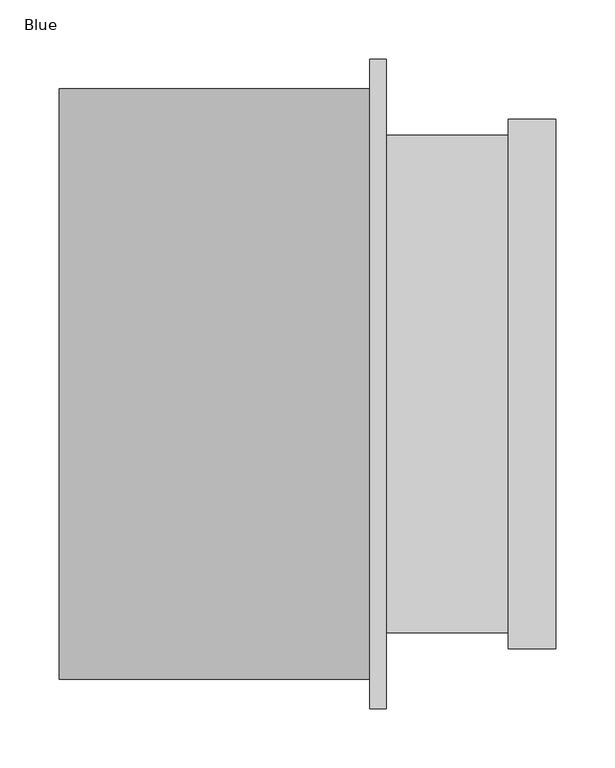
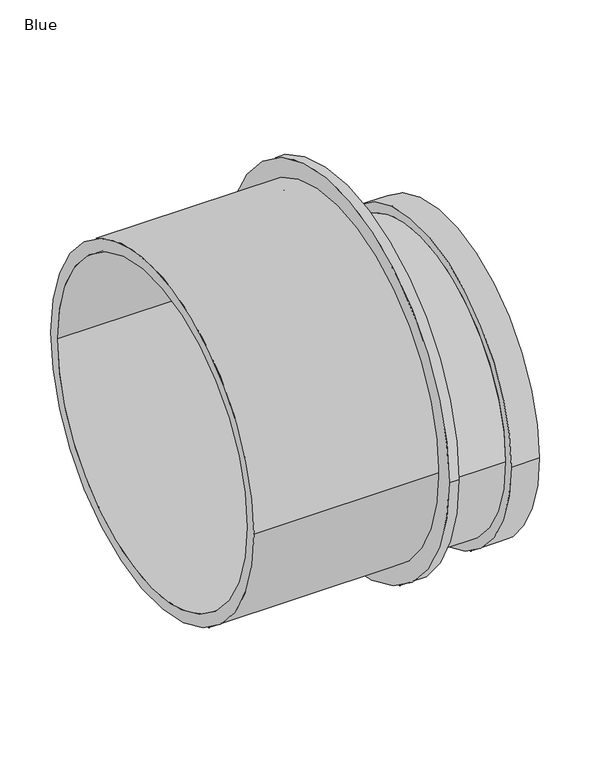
"""IFC4 building model written with IfcOpenShell, lengths in millimetres: pipe fitting geometry, AWADUKT PP Transition : Blue."""

from ifc_helpers import new_model, si_unit, point, frame, frame_2d, origin, origin_2d, place, context, project, spatial, polyline, circle_curve, trimmed, segment, composite_curve, outline, extrude, source, transform, mapped, element, save
from ifc_brep_helpers import plane_surface, cylinder_surface, revolved_surface, advanced_brep


def blue_9578d6e9(model_context):
    return source(origin(), model_context, "Body", "SolidModel", [
        extrude(outline(composite_curve([segment(trimmed(circle_curve(origin_2d(), 275.0), [point((-275.0, 0.0))], [point((275.0, 0.0))], False, "CARTESIAN"), True, "CONTINUOUS"), segment(trimmed(circle_curve(origin_2d(), 275.0), [point((275.0, 0.0))], [point((-275.0, 0.0))], False, "CARTESIAN"), True, "CONTINUOUS")], self_intersect=False), holes=[composite_curve([segment(trimmed(circle_curve(frame_2d((0.0, -48.3)), 186.05), [point((-186.05, -48.3))], [point((186.05, -48.3))], True, "CARTESIAN"), True, "CONTINUOUS"), segment(trimmed(circle_curve(frame_2d((0.0, -48.3)), 186.05), [point((186.05, -48.3))], [point((-186.05, -48.3))], True, "CARTESIAN"), True, "CONTINUOUS")], self_intersect=False)]), frame((274.0, 0.0, 0.0), z_axis=(1.0, 0.0, 0.0), x_axis=(0.0, 1.0, 0.0)), (0.0, 0.0, 1.0), 14.0),
        advanced_brep(
        [(391.3, -210.4, -48.3), (391.3, 210.4, -48.3), (288.0, 210.4, -48.3), (288.0, -210.4, -48.3), (431.5, -224.2, -48.3), (431.5, 224.2, -48.3), (391.3, 224.2, -48.3), (391.3, -224.2, -48.3), (421.1, -200.0, -48.3), (421.1, 200.0, -48.3), (431.5, 200.0, -48.3), (431.5, -200.0, -48.3), (401.7, -210.4, -48.3), (401.7, 210.4, -48.3), (421.1, 210.4, -48.3), (421.1, -210.4, -48.3), (288.0, -200.0, -48.3), (288.0, 200.0, -48.3), (401.7, 200.0, -48.3), (401.7, -200.0, -48.3)],
        [
            (0, 1, circle_curve(frame((391.3, 0.0, -48.3), z_axis=(-1.0, 0.0, 0.0), x_axis=(0.0, 1.0, 0.0)), 210.4)),
            (1, 2),
            (2, 3, circle_curve(frame((288.0, 0.0, -48.3), z_axis=(1.0, 0.0, 0.0), x_axis=(0.0, 1.0, 0.0)), 210.4)),
            (3, 0),
            (4, 5, circle_curve(frame((431.5, 0.0, -48.3), z_axis=(-1.0, 0.0, 0.0), x_axis=(0.0, 1.0, 0.0)), 224.2)),
            (5, 6),
            (6, 7, circle_curve(frame((391.3, 0.0, -48.3), z_axis=(1.0, 0.0, 0.0), x_axis=(0.0, 1.0, 0.0)), 224.2)),
            (7, 4),
            (8, 9, circle_curve(frame((421.1, 0.0, -48.3), z_axis=(-1.0, 0.0, 0.0), x_axis=(0.0, 1.0, 0.0)), 200.0)),
            (9, 10),
            (10, 11, circle_curve(frame((431.5, 0.0, -48.3), z_axis=(1.0, 0.0, 0.0), x_axis=(0.0, 1.0, 0.0)), 200.0)),
            (11, 8),
            (12, 13, circle_curve(frame((401.7, 0.0, -48.3), z_axis=(-1.0, 0.0, 0.0), x_axis=(0.0, 1.0, 0.0)), 210.4)),
            (13, 14),
            (14, 15, circle_curve(frame((421.1, 0.0, -48.3), z_axis=(1.0, 0.0, 0.0), x_axis=(0.0, 1.0, 0.0)), 210.4)),
            (15, 12),
            (16, 17, circle_curve(frame((288.0, 0.0, -48.3), z_axis=(-1.0, 0.0, 0.0), x_axis=(0.0, 1.0, 0.0)), 200.0)),
            (17, 18),
            (18, 19, circle_curve(frame((401.7, 0.0, -48.3), z_axis=(1.0, 0.0, 0.0), x_axis=(0.0, 1.0, 0.0)), 200.0)),
            (19, 16),
            (2, 3, circle_curve(frame((288.0, 0.0, -48.3), z_axis=(-1.0, 0.0, 0.0), x_axis=(0.0, -1.0, 0.0)), 210.4)),
            (16, 17, circle_curve(frame((288.0, 0.0, -48.3), z_axis=(1.0, 0.0, 0.0), x_axis=(0.0, -1.0, 0.0)), 200.0)),
            (1, 0, circle_curve(frame((391.3, 0.0, -48.3), z_axis=(-1.0, 0.0, 0.0), x_axis=(0.0, -1.0, 0.0)), 210.4)),
            (6, 7, circle_curve(frame((391.3, 0.0, -48.3), z_axis=(-1.0, 0.0, 0.0), x_axis=(0.0, -1.0, 0.0)), 224.2)),
            (5, 4, circle_curve(frame((431.5, 0.0, -48.3), z_axis=(-1.0, 0.0, 0.0), x_axis=(0.0, -1.0, 0.0)), 224.2)),
            (10, 11, circle_curve(frame((431.5, 0.0, -48.3), z_axis=(-1.0, 0.0, 0.0), x_axis=(0.0, -1.0, 0.0)), 200.0)),
            (9, 8, circle_curve(frame((421.1, 0.0, -48.3), z_axis=(-1.0, 0.0, 0.0), x_axis=(0.0, -1.0, 0.0)), 200.0)),
            (14, 15, circle_curve(frame((421.1, 0.0, -48.3), z_axis=(-1.0, 0.0, 0.0), x_axis=(0.0, -1.0, 0.0)), 210.4)),
            (13, 12, circle_curve(frame((401.7, 0.0, -48.3), z_axis=(-1.0, 0.0, 0.0), x_axis=(0.0, -1.0, 0.0)), 210.4)),
            (18, 19, circle_curve(frame((401.7, 0.0, -48.3), z_axis=(-1.0, 0.0, 0.0), x_axis=(0.0, -1.0, 0.0)), 200.0)),
        ],
        [
            cylinder_surface(frame((288.0, 0.0, -48.3), z_axis=(1.0, 0.0, 0.0), x_axis=(0.0, 1.0, 0.0)), 210.4),
            cylinder_surface(frame((288.0, 0.0, -48.3), z_axis=(1.0, 0.0, 0.0), x_axis=(0.0, 1.0, 0.0)), 224.2),
            revolved_surface(polyline([(431.5, 200.0, -48.3), (421.1, 200.0, -48.3)]), (288.0, 0.0, -48.3), (1.0, 0.0, 0.0)),
            revolved_surface(polyline([(421.1, 210.4, -48.3), (401.7, 210.4, -48.3)]), (288.0, 0.0, -48.3), (1.0, 0.0, 0.0)),
            revolved_surface(polyline([(401.7, 200.0, -48.3), (288.0, 200.0, -48.3)]), (288.0, 0.0, -48.3), (1.0, 0.0, 0.0)),
            plane_surface(frame((288.0, 0.0, -48.3), z_axis=(-1.0, 0.0, 0.0), x_axis=(0.0, -1.0, 0.0))),
            cylinder_surface(frame((288.0, 0.0, -48.3), z_axis=(1.0, 0.0, 0.0), x_axis=(0.0, -1.0, 0.0)), 210.4),
            plane_surface(frame((391.3, 0.0, -48.3), z_axis=(-1.0, 0.0, 0.0), x_axis=(0.0, -1.0, 0.0))),
            cylinder_surface(frame((288.0, 0.0, -48.3), z_axis=(1.0, 0.0, 0.0), x_axis=(0.0, -1.0, 0.0)), 224.2),
            plane_surface(frame((431.5, 0.0, -48.3), z_axis=(1.0, 0.0, 0.0), x_axis=(0.0, -1.0, 0.0))),
            revolved_surface(polyline([(431.5, -200.0, -48.3), (421.1, -200.0, -48.3)]), (288.0, 0.0, -48.3), (1.0, 0.0, 0.0)),
            plane_surface(frame((421.1, 0.0, -48.3), z_axis=(-1.0, 0.0, 0.0), x_axis=(0.0, -1.0, 0.0))),
            revolved_surface(polyline([(421.1, -210.4, -48.3), (401.7, -210.4, -48.3)]), (288.0, 0.0, -48.3), (1.0, 0.0, 0.0)),
            plane_surface(frame((401.7, 0.0, -48.3), z_axis=(1.0, 0.0, 0.0), x_axis=(0.0, -1.0, 0.0))),
            revolved_surface(polyline([(401.7, -200.0, -48.3), (288.0, -200.0, -48.3)]), (288.0, 0.0, -48.3), (1.0, 0.0, 0.0)),
        ],
        [
            (0, [[1, 2, 3, 4]]),
            (1, [[5, 6, 7, 8]]),
            (2, [[9, 10, 11, 12]]),
            (3, [[13, 14, 15, 16]]),
            (4, [[17, 18, 19, 20]]),
            (5, [[21, -3], [22, -17]]),
            (6, [[23, -4, -21, -2]]),
            (7, [[24, -7], [-23, -1]]),
            (8, [[25, -8, -24, -6]]),
            (9, [[-25, -5], [26, -11]]),
            (10, [[27, -12, -26, -10]]),
            (11, [[28, -15], [-27, -9]]),
            (12, [[29, -16, -28, -14]]),
            (13, [[-29, -13], [30, -19]]),
            (14, [[-22, -20, -30, -18]]),
        ],
    ),
        extrude(outline(composite_curve([segment(trimmed(circle_curve(origin_2d(), 250.0), [point((-250.0, 0.0))], [point((250.0, 0.0))], False, "CARTESIAN"), True, "CONTINUOUS"), segment(trimmed(circle_curve(origin_2d(), 250.0), [point((250.0, 0.0))], [point((-250.0, 0.0))], False, "CARTESIAN"), True, "CONTINUOUS")], self_intersect=False), holes=[composite_curve([segment(trimmed(circle_curve(origin_2d(), 232.9), [point((232.9, 0.0))], [point((-232.9, 0.0))], True, "CARTESIAN"), True, "CONTINUOUS"), segment(trimmed(circle_curve(origin_2d(), 232.9), [point((-232.9, 0.0))], [point((232.9, 0.0))], True, "CARTESIAN"), True, "CONTINUOUS")], self_intersect=False)]), frame((11.0, 0.0, 0.0), z_axis=(1.0, 0.0, 0.0), x_axis=(0.0, 1.0, 0.0)), (0.0, 0.0, 1.0), 263.0),
    ])


if __name__ == "__main__":
    model = new_model("IFC4")
    model_context = context("Model", 3, world=origin())
    ifc_project = project(units=[si_unit("LENGTHUNIT", "METRE", prefix="MILLI")], contexts=[model_context])
    site = spatial("IfcSite", under=ifc_project)
    building = spatial("IfcBuilding", under=site)
    placement = place(None, origin())
    blue_shape = blue_9578d6e9(model_context)
    element("IfcPipeFitting", 1, ObjectType="AWADUKT PP Transition : Blue", at=placement, inside=building, context=model_context, shape_type="MappedRepresentation", body=[
        mapped(blue_shape, transform((0.0, 0.0, 0.0), x_axis=(1.0, 0.0, 0.0), y_axis=(0.0, 1.0, 0.0), z_axis=(0.0, 0.0, 1.0))),
    ])
    save(model, "model.ifc")
